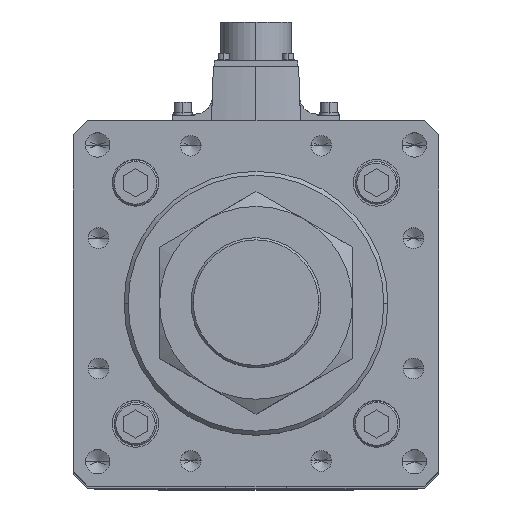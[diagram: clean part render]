
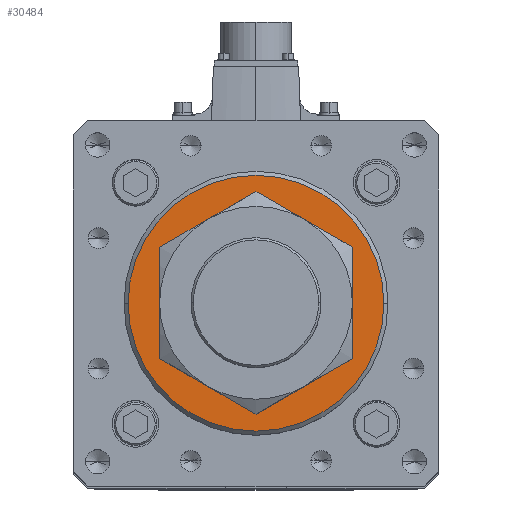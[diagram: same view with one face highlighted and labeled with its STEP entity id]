
A CAD part, top view. The second image highlights one B-rep face of the part: STEP entity #30484.
In plain terms, the highlighted planar face has unit normal (0, 0, 1).
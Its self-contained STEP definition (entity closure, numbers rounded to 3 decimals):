
#56 = AXIS2_PLACEMENT_3D ( 'NONE', #15400, #2876, #19666 ) ;
#1709 = EDGE_CURVE ( 'NONE', #55196, #47408, #16621, .T. ) ;
#1847 = ORIENTED_EDGE ( 'NONE', *, *, #19413, .T. ) ;
#2220 = DIRECTION ( 'NONE',  ( 0., 0., -1. ) ) ;
#2278 = CIRCLE ( 'NONE', #4089, 40.5 ) ;
#2876 = DIRECTION ( 'NONE',  ( 0., 0., 1. ) ) ;
#2941 = DIRECTION ( 'NONE',  ( 1., 0., 0. ) ) ;
#4089 = AXIS2_PLACEMENT_3D ( 'NONE', #11415, #2220, #41152 ) ;
#6586 = EDGE_LOOP ( 'NONE', ( #1847, #42370 ) ) ;
#9673 = EDGE_CURVE ( 'NONE', #41514, #53608, #25381, .T. ) ;
#10605 = AXIS2_PLACEMENT_3D ( 'NONE', #46364, #20506, #2941 ) ;
#10824 = CARTESIAN_POINT ( 'NONE',  ( 0., 0., 712. ) ) ;
#11415 = CARTESIAN_POINT ( 'NONE',  ( 0., 0., 712. ) ) ;
#15400 = CARTESIAN_POINT ( 'NONE',  ( 0., 0., 712. ) ) ;
#16621 = CIRCLE ( 'NONE', #22276, 63. ) ;
#17032 = DIRECTION ( 'NONE',  ( 0., 0., 1. ) ) ;
#17439 = ORIENTED_EDGE ( 'NONE', *, *, #38551, .T. ) ;
#18782 = AXIS2_PLACEMENT_3D ( 'NONE', #37699, #17032, #50749 ) ;
#19413 = EDGE_CURVE ( 'NONE', #53608, #41514, #2278, .T. ) ;
#19538 = DIRECTION ( 'NONE',  ( 0., 0., 1. ) ) ;
#19666 = DIRECTION ( 'NONE',  ( 1., 0., 0. ) ) ;
#20506 = DIRECTION ( 'NONE',  ( 0., 0., -1. ) ) ;
#22276 = AXIS2_PLACEMENT_3D ( 'NONE', #10824, #19538, #23107 ) ;
#23107 = DIRECTION ( 'NONE',  ( 1., 0., 0. ) ) ;
#24136 = CARTESIAN_POINT ( 'NONE',  ( 40.5, 0., 712. ) ) ;
#24287 = FACE_OUTER_BOUND ( 'NONE', #25848, .T. ) ;
#24529 = CIRCLE ( 'NONE', #56, 63. ) ;
#25381 = CIRCLE ( 'NONE', #10605, 40.5 ) ;
#25848 = EDGE_LOOP ( 'NONE', ( #17439, #51753 ) ) ;
#30484 = ADVANCED_FACE ( 'NONE', ( #51570, #24287 ), #40888, .T. ) ;
#30552 = CARTESIAN_POINT ( 'NONE',  ( 63., 0., 712. ) ) ;
#33016 = CARTESIAN_POINT ( 'NONE',  ( -63., 0., 712. ) ) ;
#37699 = CARTESIAN_POINT ( 'NONE',  ( 0., 0., 712. ) ) ;
#38551 = EDGE_CURVE ( 'NONE', #47408, #55196, #24529, .T. ) ;
#40888 = PLANE ( 'NONE',  #18782 ) ;
#41152 = DIRECTION ( 'NONE',  ( 1., 0., 0. ) ) ;
#41514 = VERTEX_POINT ( 'NONE', #45402 ) ;
#42370 = ORIENTED_EDGE ( 'NONE', *, *, #9673, .T. ) ;
#45402 = CARTESIAN_POINT ( 'NONE',  ( -40.5, 0., 712. ) ) ;
#46364 = CARTESIAN_POINT ( 'NONE',  ( 0., 0., 712. ) ) ;
#47408 = VERTEX_POINT ( 'NONE', #33016 ) ;
#50749 = DIRECTION ( 'NONE',  ( 1., 0., 0. ) ) ;
#51570 = FACE_BOUND ( 'NONE', #6586, .T. ) ;
#51753 = ORIENTED_EDGE ( 'NONE', *, *, #1709, .T. ) ;
#53608 = VERTEX_POINT ( 'NONE', #24136 ) ;
#55196 = VERTEX_POINT ( 'NONE', #30552 ) ;
